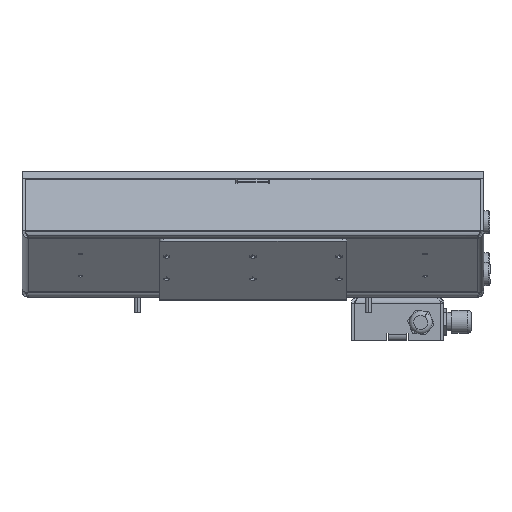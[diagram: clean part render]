
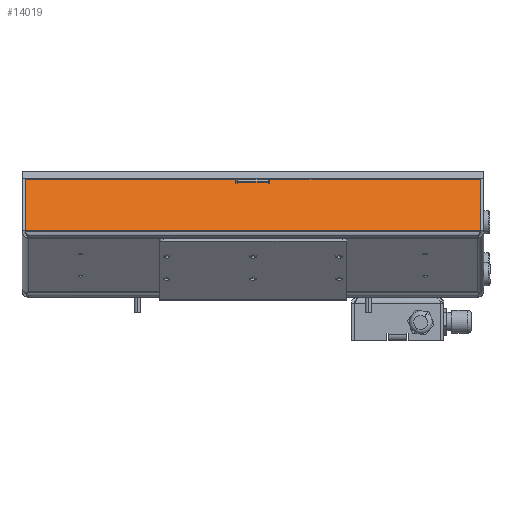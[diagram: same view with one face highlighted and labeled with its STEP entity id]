
A CAD part, front view. The second image highlights one B-rep face of the part: STEP entity #14019.
In plain terms, the highlighted planar face has unit normal (0, -0.94, 0.342) as drawn and (1, 0, 0) by its records, which use the part's own axes.
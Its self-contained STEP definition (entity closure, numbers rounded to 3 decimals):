
#472 = EDGE_CURVE ( 'NONE', #2730, #4095, #6033, .T. ) ;
#862 = ORIENTED_EDGE ( 'NONE', *, *, #13380, .F. ) ;
#996 = LINE ( 'NONE', #32610, #30633 ) ;
#1331 = VERTEX_POINT ( 'NONE', #25426 ) ;
#1681 = ORIENTED_EDGE ( 'NONE', *, *, #16576, .F. ) ;
#2730 = VERTEX_POINT ( 'NONE', #17544 ) ;
#3340 = LINE ( 'NONE', #11537, #17703 ) ;
#3511 = VERTEX_POINT ( 'NONE', #29279 ) ;
#3991 = CARTESIAN_POINT ( 'NONE',  ( 55., -150., 2. ) ) ;
#4095 = VERTEX_POINT ( 'NONE', #7876 ) ;
#4245 = EDGE_CURVE ( 'NONE', #34402, #4095, #996, .T. ) ;
#4859 = CARTESIAN_POINT ( 'NONE',  ( 55., 0., 36. ) ) ;
#5152 = VERTEX_POINT ( 'NONE', #17330 ) ;
#5751 = LINE ( 'NONE', #21324, #21470 ) ;
#5876 = LINE ( 'NONE', #11475, #17135 ) ;
#6033 = LINE ( 'NONE', #27192, #9609 ) ;
#6306 = DIRECTION ( 'NONE',  ( 0., 0., -1. ) ) ;
#6464 = LINE ( 'NONE', #19941, #13211 ) ;
#6792 = DIRECTION ( 'NONE',  ( 0., -1., 0. ) ) ;
#6889 = EDGE_CURVE ( 'NONE', #5152, #23045, #30969, .T. ) ;
#7044 = DIRECTION ( 'NONE',  ( 0., -1., 0. ) ) ;
#7876 = CARTESIAN_POINT ( 'NONE',  ( 55., 11., 38. ) ) ;
#8419 = FACE_OUTER_BOUND ( 'NONE', #11073, .T. ) ;
#8611 = ORIENTED_EDGE ( 'NONE', *, *, #6889, .T. ) ;
#8666 = DIRECTION ( 'NONE',  ( 0., 1., 0. ) ) ;
#8733 = VERTEX_POINT ( 'NONE', #22980 ) ;
#8975 = VECTOR ( 'NONE', #7044, 1000. ) ;
#8995 = EDGE_CURVE ( 'NONE', #30727, #8733, #31416, .T. ) ;
#9108 = CARTESIAN_POINT ( 'NONE',  ( 55., 0., 35. ) ) ;
#9609 = VECTOR ( 'NONE', #21941, 1000. ) ;
#11073 = EDGE_LOOP ( 'NONE', ( #21455, #1681, #28541, #22297, #862, #13021, #28366, #8611, #24926, #15293, #18355, #12632 ) ) ;
#11475 = CARTESIAN_POINT ( 'NONE',  ( 55., 0., 35. ) ) ;
#11537 = CARTESIAN_POINT ( 'NONE',  ( 55., 10., 0. ) ) ;
#12274 = CARTESIAN_POINT ( 'NONE',  ( 55., -147.9, 38. ) ) ;
#12300 = EDGE_CURVE ( 'NONE', #25451, #34402, #16123, .T. ) ;
#12343 = EDGE_CURVE ( 'NONE', #5152, #1331, #5751, .T. ) ;
#12632 = ORIENTED_EDGE ( 'NONE', *, *, #4245, .T. ) ;
#13021 = ORIENTED_EDGE ( 'NONE', *, *, #26786, .F. ) ;
#13146 = LINE ( 'NONE', #32177, #18748 ) ;
#13211 = VECTOR ( 'NONE', #33162, 1000. ) ;
#13349 = CARTESIAN_POINT ( 'NONE',  ( 55., 147.9, 38. ) ) ;
#13380 = EDGE_CURVE ( 'NONE', #3511, #30727, #6464, .T. ) ;
#13851 = DIRECTION ( 'NONE',  ( -1., 0., 0. ) ) ;
#14019 = ADVANCED_FACE ( 'NONE', ( #8419 ), #24009, .F. ) ;
#14898 = DIRECTION ( 'NONE',  ( 0., 1., 0. ) ) ;
#14926 = CARTESIAN_POINT ( 'NONE',  ( 55., -10., 36. ) ) ;
#15293 = ORIENTED_EDGE ( 'NONE', *, *, #24292, .F. ) ;
#15962 = CARTESIAN_POINT ( 'NONE',  ( 55., 0., 0. ) ) ;
#16123 = LINE ( 'NONE', #18601, #28206 ) ;
#16576 = EDGE_CURVE ( 'NONE', #29856, #2730, #19987, .T. ) ;
#16733 = DIRECTION ( 'NONE',  ( 0., 1., 0. ) ) ;
#16808 = VECTOR ( 'NONE', #16733, 1000. ) ;
#17135 = VECTOR ( 'NONE', #8666, 1000. ) ;
#17330 = CARTESIAN_POINT ( 'NONE',  ( 55., -11., 38. ) ) ;
#17544 = CARTESIAN_POINT ( 'NONE',  ( 55., 11., 35. ) ) ;
#17703 = VECTOR ( 'NONE', #6306, 1000. ) ;
#18355 = ORIENTED_EDGE ( 'NONE', *, *, #12300, .T. ) ;
#18601 = CARTESIAN_POINT ( 'NONE',  ( 55., 147.9, 2. ) ) ;
#18614 = EDGE_CURVE ( 'NONE', #8733, #29856, #3340, .T. ) ;
#18748 = VECTOR ( 'NONE', #20865, 1000. ) ;
#19203 = DIRECTION ( 'NONE',  ( 0., -1., 0. ) ) ;
#19941 = CARTESIAN_POINT ( 'NONE',  ( 55., -10., 0. ) ) ;
#19987 = LINE ( 'NONE', #9108, #27729 ) ;
#20865 = DIRECTION ( 'NONE',  ( 0., 0., 1. ) ) ;
#21324 = CARTESIAN_POINT ( 'NONE',  ( 55., -11., 0. ) ) ;
#21455 = ORIENTED_EDGE ( 'NONE', *, *, #472, .F. ) ;
#21470 = VECTOR ( 'NONE', #32315, 1000. ) ;
#21941 = DIRECTION ( 'NONE',  ( 0., 0., 1. ) ) ;
#22216 = VERTEX_POINT ( 'NONE', #33828 ) ;
#22297 = ORIENTED_EDGE ( 'NONE', *, *, #8995, .F. ) ;
#22980 = CARTESIAN_POINT ( 'NONE',  ( 55., 10., 36. ) ) ;
#23045 = VERTEX_POINT ( 'NONE', #12274 ) ;
#24009 = PLANE ( 'NONE',  #24477 ) ;
#24292 = EDGE_CURVE ( 'NONE', #25451, #22216, #30710, .T. ) ;
#24477 = AXIS2_PLACEMENT_3D ( 'NONE', #15962, #13851, #24509 ) ;
#24509 = DIRECTION ( 'NONE',  ( 0., 0., 1. ) ) ;
#24926 = ORIENTED_EDGE ( 'NONE', *, *, #25929, .F. ) ;
#24944 = CARTESIAN_POINT ( 'NONE',  ( 55., 147.9, 2. ) ) ;
#25227 = VECTOR ( 'NONE', #6792, 1000. ) ;
#25426 = CARTESIAN_POINT ( 'NONE',  ( 55., -11., 35. ) ) ;
#25451 = VERTEX_POINT ( 'NONE', #24944 ) ;
#25929 = EDGE_CURVE ( 'NONE', #22216, #23045, #13146, .T. ) ;
#26786 = EDGE_CURVE ( 'NONE', #1331, #3511, #5876, .T. ) ;
#27192 = CARTESIAN_POINT ( 'NONE',  ( 55., 11., 0. ) ) ;
#27729 = VECTOR ( 'NONE', #14898, 1000. ) ;
#28021 = CARTESIAN_POINT ( 'NONE',  ( 55., 0., 38. ) ) ;
#28206 = VECTOR ( 'NONE', #29230, 1000. ) ;
#28366 = ORIENTED_EDGE ( 'NONE', *, *, #12343, .F. ) ;
#28541 = ORIENTED_EDGE ( 'NONE', *, *, #18614, .F. ) ;
#29230 = DIRECTION ( 'NONE',  ( 0., 0., 1. ) ) ;
#29279 = CARTESIAN_POINT ( 'NONE',  ( 55., -10., 35. ) ) ;
#29856 = VERTEX_POINT ( 'NONE', #33441 ) ;
#30633 = VECTOR ( 'NONE', #19203, 1000. ) ;
#30710 = LINE ( 'NONE', #3991, #25227 ) ;
#30727 = VERTEX_POINT ( 'NONE', #14926 ) ;
#30969 = LINE ( 'NONE', #28021, #8975 ) ;
#31416 = LINE ( 'NONE', #4859, #16808 ) ;
#32177 = CARTESIAN_POINT ( 'NONE',  ( 55., -147.9, 2. ) ) ;
#32315 = DIRECTION ( 'NONE',  ( 0., 0., -1. ) ) ;
#32610 = CARTESIAN_POINT ( 'NONE',  ( 55., 0., 38. ) ) ;
#33162 = DIRECTION ( 'NONE',  ( 0., 0., 1. ) ) ;
#33441 = CARTESIAN_POINT ( 'NONE',  ( 55., 10., 35. ) ) ;
#33828 = CARTESIAN_POINT ( 'NONE',  ( 55., -147.9, 2. ) ) ;
#34402 = VERTEX_POINT ( 'NONE', #13349 ) ;
